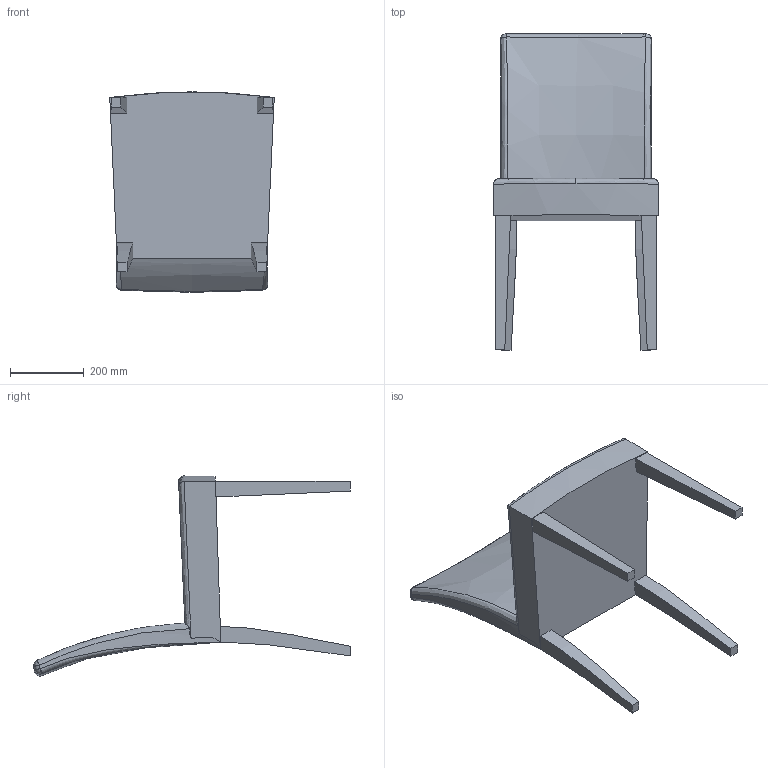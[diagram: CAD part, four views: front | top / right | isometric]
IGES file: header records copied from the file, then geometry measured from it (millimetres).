
Global section: file name: VincentSheppard_Edward; native system: unknown; preprocessor: unknown; author: ict@vincentsheppard.com; organization: unknown; date: 20180516.163129; units: millimetre
Bounding box: 445 x 855.97 x 541.6 mm (x, y, z)
Volume: 27303641.2 mm3; surface area: 1115708.8 mm2
Topology: 5 solids, 5 shells, 52 faces, 116 edges, 70 vertices
Faces by surface type: bspline 52
